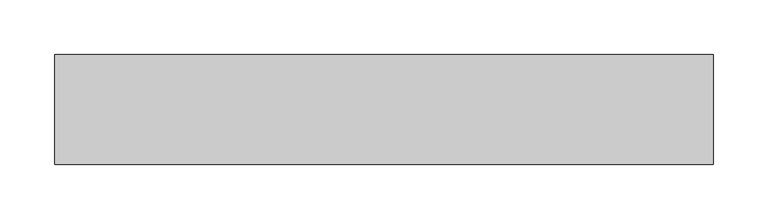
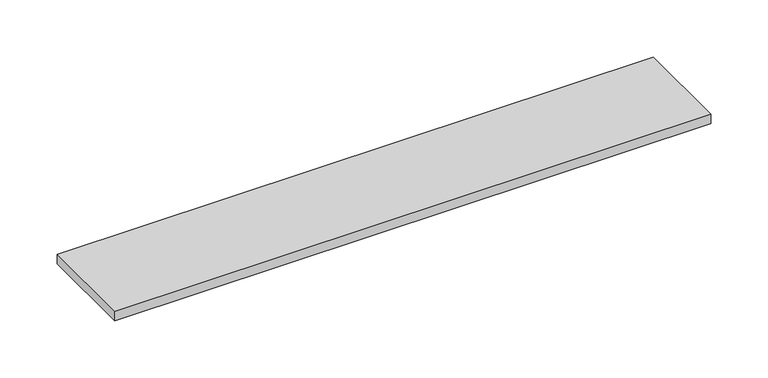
"""IFC4 building model written with IfcOpenShell, lengths in millimetres: proxy geometry, Bodenmarkierung : Belagsmarkierung."""

from ifc_helpers import new_model, si_unit, origin, origin_with_axes, place, context, project, spatial, polyline, outline, extrude, source, transform, mapped, element, save


def entourage_5a65eec9(model_context):
    return source(origin(), model_context, "Body", "SweptSolid", [
        extrude(outline(polyline([(300.0, 50.0), (300.0, -50.0), (-300.0, -50.0), (-300.0, 50.0), (300.0, 50.0)])), origin_with_axes(), (0.0, 0.0, 1.0), 10.0),
    ])


if __name__ == "__main__":
    model = new_model("IFC4")
    model_context = context("Model", 3, world=origin())
    ifc_project = project(units=[si_unit("LENGTHUNIT", "METRE", prefix="MILLI")], contexts=[model_context])
    site = spatial("IfcSite", under=ifc_project)
    building = spatial("IfcBuilding", under=site)
    placement = place(None, origin())
    entourage_shape = entourage_5a65eec9(model_context)
    element("IfcBuildingElementProxy", 1, Name="Bodenmarkierung : Belagsmarkierung", ObjectType="Bodenmarkierung : Belagsmarkierung", at=placement, inside=building, context=model_context, shape_type="MappedRepresentation", body=[
        mapped(entourage_shape, transform((0.0, 0.0, 0.0), x_axis=(1.0, 0.0, 0.0), y_axis=(0.0, 1.0, 0.0), z_axis=(0.0, 0.0, 1.0))),
    ])
    save(model, "model.ifc")
